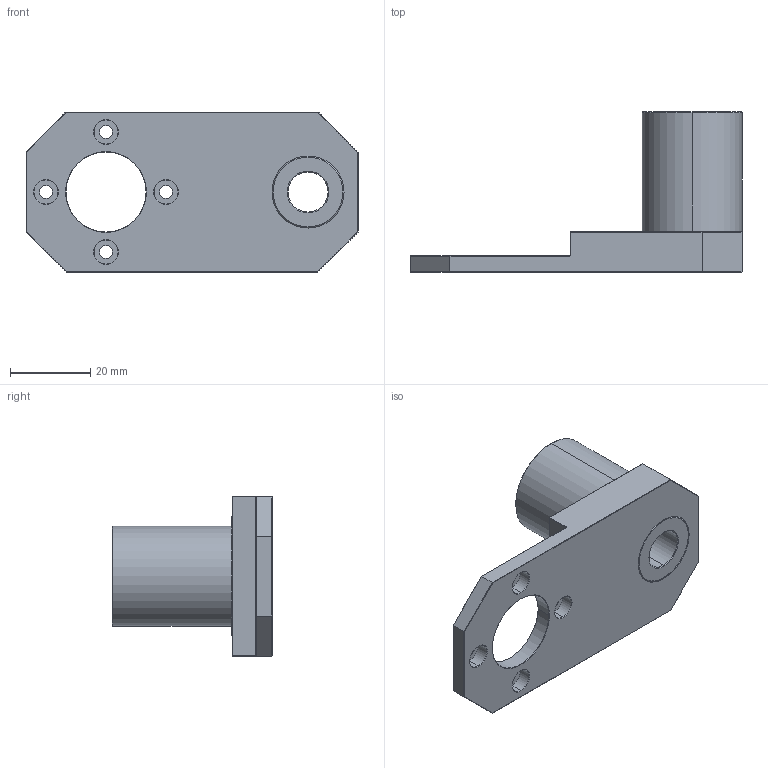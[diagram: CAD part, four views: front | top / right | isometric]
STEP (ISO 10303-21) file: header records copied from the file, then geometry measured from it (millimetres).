
FILE_DESCRIPTION (( 'STEP AP214' ), '1' );
FILE_NAME ('LEV.2801.STEP', '2025-01-13T08:35:51', ( '' ), ( '' ), 'SwSTEP 2.0', 'SolidWorks 2019', '' );
FILE_SCHEMA (( 'AUTOMOTIVE_DESIGN' ));
Length unit declared in the file: millimetre
Products named in the file (1): LEV.2801
Bounding box: 83 x 40 x 40 mm (x, y, z)
Volume: 32127.4 mm3; surface area: 11386.2 mm2
Topology: 1 solids, 2 shells, 103 faces, 230 edges, 136 vertices
Faces by surface type: plane 45, cone 32, cylinder 26
Entity records: 4011 total; most frequent: DIRECTION 528, CARTESIAN_POINT 470, ORIENTED_EDGE 460, EDGE_CURVE 230, AXIS2_PLACEMENT_3D 194, LINE 140, VECTOR 140, VERTEX_POINT 136
